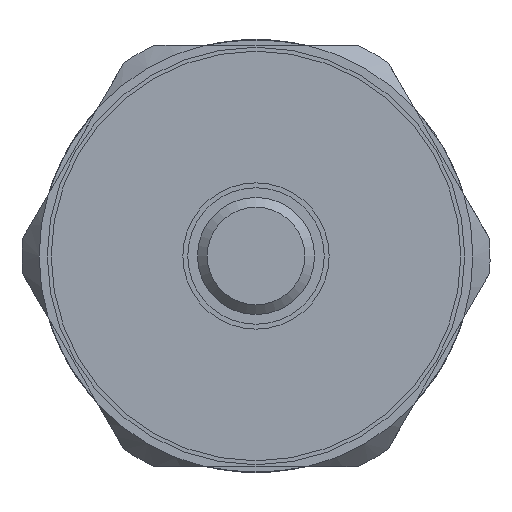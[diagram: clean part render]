
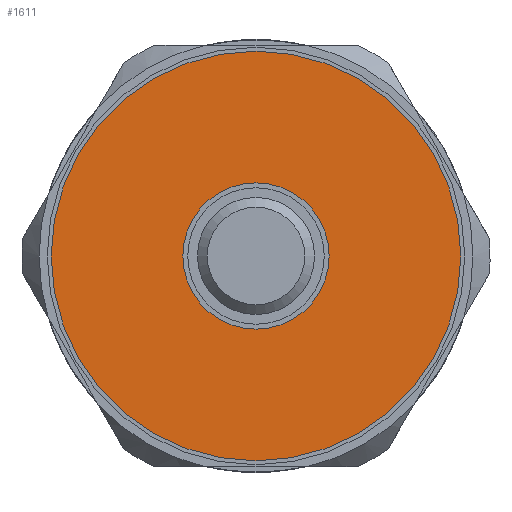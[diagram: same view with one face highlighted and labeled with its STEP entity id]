
A CAD part, left-side view. The second image highlights one B-rep face of the part: STEP entity #1611.
In plain terms, the highlighted planar face has unit normal (-1, 0, 0) as drawn and (1, 0, 0) by its records, which use the part's own axes.
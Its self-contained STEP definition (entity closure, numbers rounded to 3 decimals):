
#118=FACE_BOUND('',#305,.T.);
#151=PLANE('',#1831);
#207=FACE_OUTER_BOUND('',#304,.T.);
#304=EDGE_LOOP('',(#1241,#1242));
#305=EDGE_LOOP('',(#1243,#1244));
#535=CIRCLE('',#1776,3.75);
#536=CIRCLE('',#1777,3.75);
#565=CIRCLE('',#1832,10.5);
#566=CIRCLE('',#1833,10.5);
#672=VERTEX_POINT('',#2573);
#673=VERTEX_POINT('',#2574);
#726=VERTEX_POINT('',#2782);
#727=VERTEX_POINT('',#2783);
#844=EDGE_CURVE('',#672,#673,#535,.T.);
#845=EDGE_CURVE('',#673,#672,#536,.T.);
#925=EDGE_CURVE('',#726,#727,#565,.T.);
#926=EDGE_CURVE('',#727,#726,#566,.T.);
#1241=ORIENTED_EDGE('',*,*,#925,.T.);
#1242=ORIENTED_EDGE('',*,*,#926,.T.);
#1243=ORIENTED_EDGE('',*,*,#844,.T.);
#1244=ORIENTED_EDGE('',*,*,#845,.T.);
#1611=ADVANCED_FACE('',(#207,#118),#151,.T.);
#1776=AXIS2_PLACEMENT_3D('',#2575,#2027,#2028);
#1777=AXIS2_PLACEMENT_3D('',#2576,#2029,#2030);
#1831=AXIS2_PLACEMENT_3D('',#2781,#2164,#2165);
#1832=AXIS2_PLACEMENT_3D('',#2784,#2166,#2167);
#1833=AXIS2_PLACEMENT_3D('',#2785,#2168,#2169);
#2027=DIRECTION('center_axis',(-1.,0.,0.));
#2028=DIRECTION('ref_axis',(0.,0.,-1.));
#2029=DIRECTION('center_axis',(-1.,0.,0.));
#2030=DIRECTION('ref_axis',(0.,0.,-1.));
#2164=DIRECTION('center_axis',(1.,0.,0.));
#2165=DIRECTION('ref_axis',(0.,0.,-1.));
#2166=DIRECTION('center_axis',(1.,0.,0.));
#2167=DIRECTION('ref_axis',(0.,0.,-1.));
#2168=DIRECTION('center_axis',(1.,0.,0.));
#2169=DIRECTION('ref_axis',(0.,0.,-1.));
#2573=CARTESIAN_POINT('',(-1.385,0.,15.218));
#2574=CARTESIAN_POINT('',(-1.385,0.,22.718));
#2575=CARTESIAN_POINT('Origin',(-1.385,0.,18.968));
#2576=CARTESIAN_POINT('Origin',(-1.385,0.,18.968));
#2781=CARTESIAN_POINT('Origin',(-1.385,0.,18.968));
#2782=CARTESIAN_POINT('',(-1.385,0.,8.468));
#2783=CARTESIAN_POINT('',(-1.385,0.,29.468));
#2784=CARTESIAN_POINT('Origin',(-1.385,0.,18.968));
#2785=CARTESIAN_POINT('Origin',(-1.385,0.,18.968));
